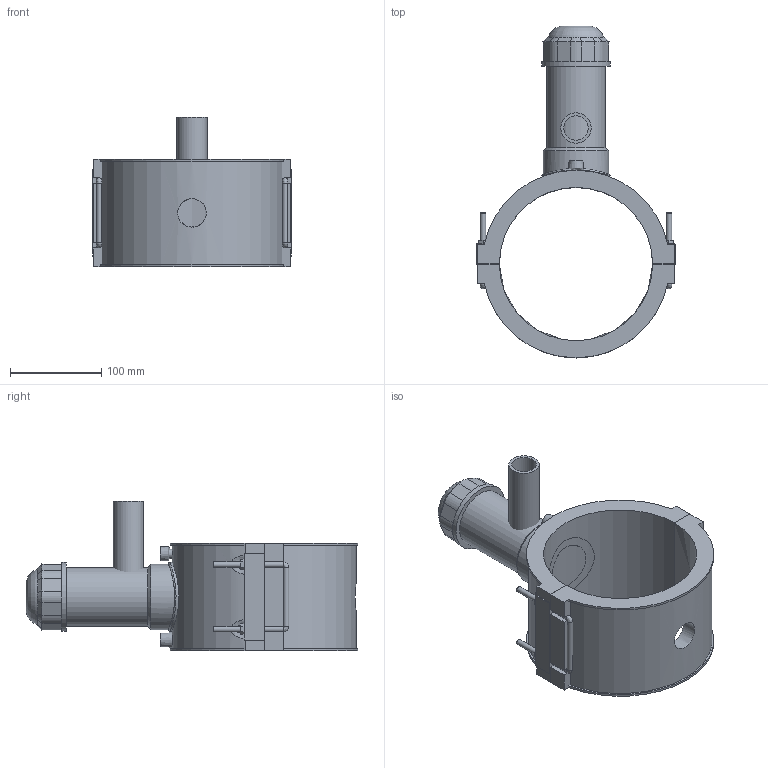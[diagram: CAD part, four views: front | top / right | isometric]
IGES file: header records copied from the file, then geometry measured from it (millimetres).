
Global section: file name: 5963BBP3060010.ipt; native system: Autodesk Inventor 2019; preprocessor: unknown; author: KIM; date: 20210830.101542; units: inch
Bounding box: 217.9 x 363.85 x 163.96 mm (x, y, z)
Volume: 1611123.7 mm3; surface area: 278101.2 mm2
Topology: 3 solids, 4 shells, 185 faces, 464 edges, 293 vertices
Faces by surface type: plane 115, cylinder 33, cone 15, revolution 13, bspline 9
Full cylindrical faces by diameter (mm): 4 x2, 6 x10, 33.3 x1, 64.26 x1, 71.82 x1, 75.6 x2
